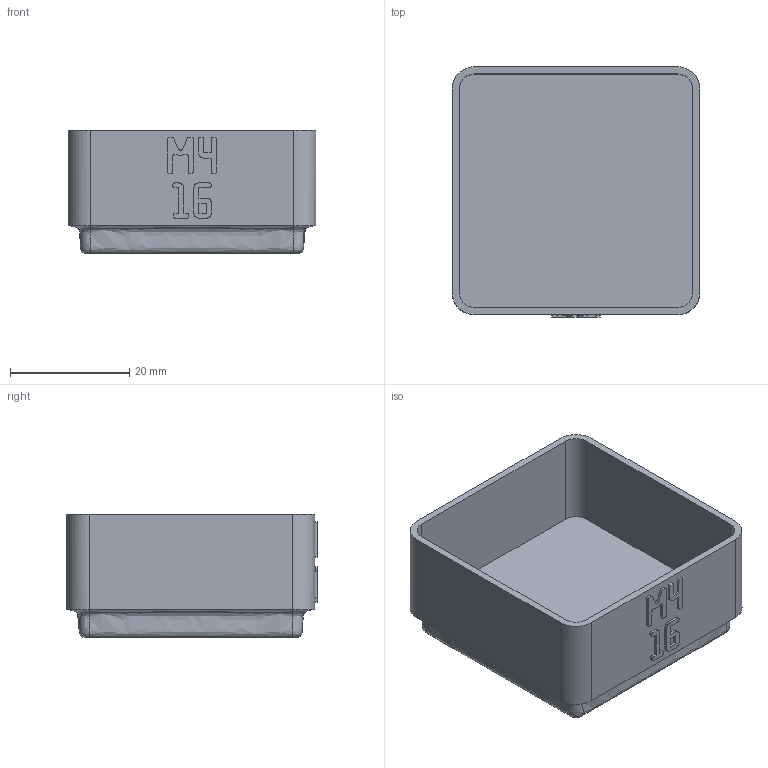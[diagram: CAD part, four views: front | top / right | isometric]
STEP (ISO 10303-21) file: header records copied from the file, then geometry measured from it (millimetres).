
FILE_DESCRIPTION(('Open CASCADE Model'),'2;1');
FILE_NAME('Open CASCADE Shape Model','2026-11-03T15:27:39',('Author'),( 'Open CASCADE'),'Open CASCADE STEP processor 8.0','build123d', 'Unknown');
FILE_SCHEMA(('AUTOMOTIVE_DESIGN { 1 0 10303 214 1 1 1 1 }'));
Length unit declared in the file: millimetre
Products named in the file (1): COMPOUND
Bounding box: 41.5 x 41.9 x 20.75 mm (x, y, z)
Volume: 9643.4 mm3; surface area: 8974.1 mm2
Topology: 1 solids, 1 shells, 418 faces, 1222 edges, 812 vertices
Faces by surface type: plane 402, bspline 8, cylinder 8
Entity records: 29106 total; most frequent: CARTESIAN_POINT 6257, DIRECTION 3672, LINE 2822, VECTOR 2822, ORIENTED_EDGE 2444, PCURVE 2444, DEFINITIONAL_REPRESENTATION 2444, EDGE_CURVE 1222
